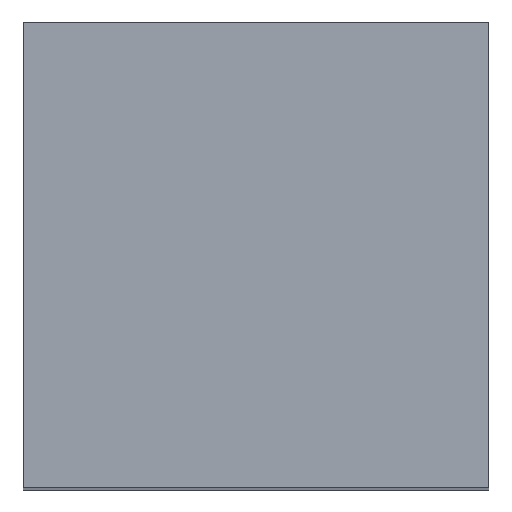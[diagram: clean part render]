
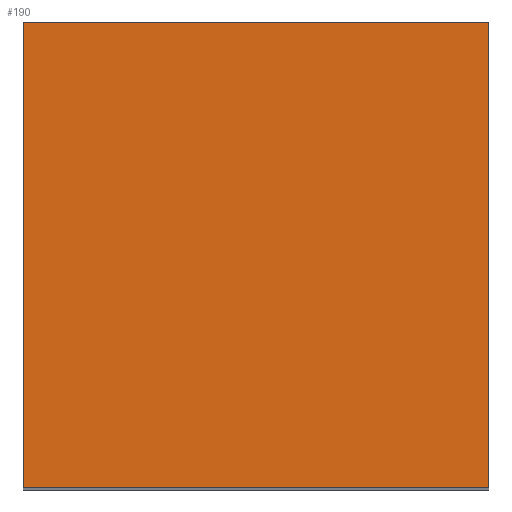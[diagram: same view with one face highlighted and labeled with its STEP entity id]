
A CAD part, top view. The second image highlights one B-rep face of the part: STEP entity #190.
In plain terms, the highlighted planar face has unit normal (0, 0, 1).
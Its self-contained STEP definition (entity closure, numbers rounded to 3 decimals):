
#7 = CARTESIAN_POINT ( 'NONE',  ( 20., 0., 58. ) ) ;
#13 = CARTESIAN_POINT ( 'NONE',  ( 0., 0., 58. ) ) ;
#15 = EDGE_CURVE ( 'NONE', #206, #237, #152, .T. ) ;
#30 = PLANE ( 'NONE',  #208 ) ;
#34 = FACE_OUTER_BOUND ( 'NONE', #183, .T. ) ;
#40 = ORIENTED_EDGE ( 'NONE', *, *, #198, .T. ) ;
#50 = EDGE_CURVE ( 'NONE', #142, #115, #185, .T. ) ;
#59 = CARTESIAN_POINT ( 'NONE',  ( 0., 20., 58. ) ) ;
#65 = VECTOR ( 'NONE', #93, 1000. ) ;
#67 = CARTESIAN_POINT ( 'NONE',  ( 20., 0., 58. ) ) ;
#75 = LINE ( 'NONE', #59, #141 ) ;
#77 = CARTESIAN_POINT ( 'NONE',  ( 0., 0., 58. ) ) ;
#85 = CARTESIAN_POINT ( 'NONE',  ( 20., 20., 58. ) ) ;
#93 = DIRECTION ( 'NONE',  ( 0., -1., 0. ) ) ;
#103 = DIRECTION ( 'NONE',  ( 0., 0., -1. ) ) ;
#106 = EDGE_CURVE ( 'NONE', #237, #142, #75, .T. ) ;
#115 = VERTEX_POINT ( 'NONE', #77 ) ;
#139 = ORIENTED_EDGE ( 'NONE', *, *, #106, .T. ) ;
#140 = DIRECTION ( 'NONE',  ( 0., 1., 0. ) ) ;
#141 = VECTOR ( 'NONE', #219, 1000. ) ;
#142 = VERTEX_POINT ( 'NONE', #164 ) ;
#145 = VECTOR ( 'NONE', #140, 1000. ) ;
#152 = LINE ( 'NONE', #7, #145 ) ;
#154 = ORIENTED_EDGE ( 'NONE', *, *, #50, .T. ) ;
#164 = CARTESIAN_POINT ( 'NONE',  ( 0., 20., 58. ) ) ;
#173 = ORIENTED_EDGE ( 'NONE', *, *, #15, .T. ) ;
#179 = LINE ( 'NONE', #13, #233 ) ;
#183 = EDGE_LOOP ( 'NONE', ( #154, #40, #173, #139 ) ) ;
#185 = LINE ( 'NONE', #225, #65 ) ;
#190 = ADVANCED_FACE ( 'NONE', ( #34 ), #30, .F. ) ;
#191 = CARTESIAN_POINT ( 'NONE',  ( 0., 0., 58. ) ) ;
#198 = EDGE_CURVE ( 'NONE', #115, #206, #179, .T. ) ;
#206 = VERTEX_POINT ( 'NONE', #67 ) ;
#208 = AXIS2_PLACEMENT_3D ( 'NONE', #191, #103, #211 ) ;
#210 = DIRECTION ( 'NONE',  ( 1., 0., 0. ) ) ;
#211 = DIRECTION ( 'NONE',  ( -1., 0., 0. ) ) ;
#219 = DIRECTION ( 'NONE',  ( -1., 0., 0. ) ) ;
#225 = CARTESIAN_POINT ( 'NONE',  ( 0., 0., 58. ) ) ;
#233 = VECTOR ( 'NONE', #210, 1000. ) ;
#237 = VERTEX_POINT ( 'NONE', #85 ) ;
